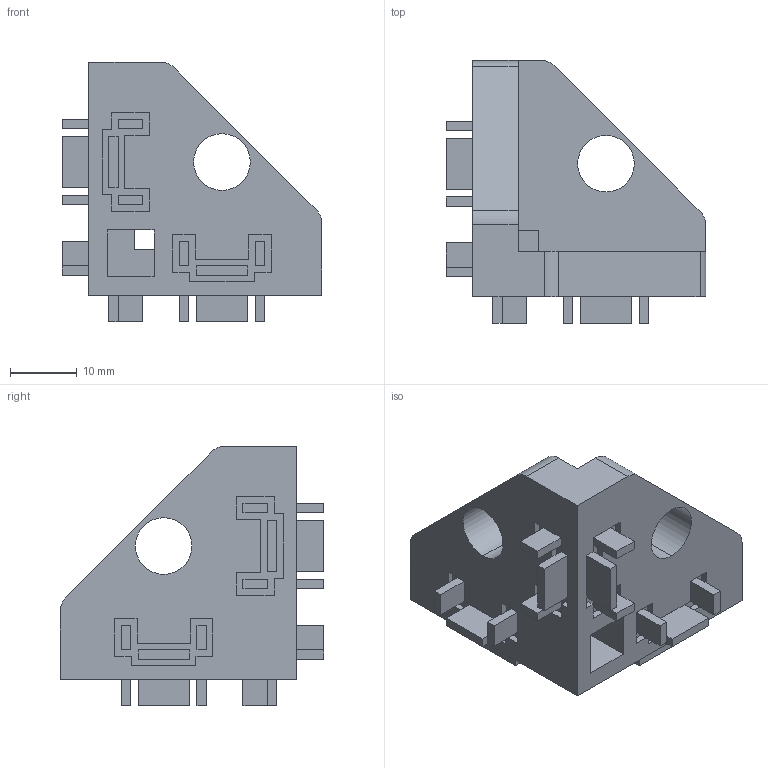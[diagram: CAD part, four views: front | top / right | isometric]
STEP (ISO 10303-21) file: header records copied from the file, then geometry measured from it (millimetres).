
FILE_DESCRIPTION (( 'STEP AP203' ), '1' );
FILE_NAME ('3 WAY CONNECTOR.STEP', '2018-03-15T12:43:30', ( '' ), ( '' ), 'SwSTEP 2.0', 'SolidWorks 2013', '' );
FILE_SCHEMA (( 'CONFIG_CONTROL_DESIGN' ));
Length unit declared in the file: millimetre
Products named in the file (1): 3 WAY CONNECTOR
Bounding box: 39 x 39.5 x 39 mm (x, y, z)
Volume: 13707.7 mm3; surface area: 7393.2 mm2
Topology: 1 solids, 1 shells, 197 faces, 516 edges, 344 vertices
Faces by surface type: plane 185, cylinder 12
Entity records: 6047 total; most frequent: CARTESIAN_POINT 1058, ORIENTED_EDGE 1032, DIRECTION 936, EDGE_CURVE 516, VECTOR 492, LINE 492, VERTEX_POINT 344, EDGE_LOOP 228
